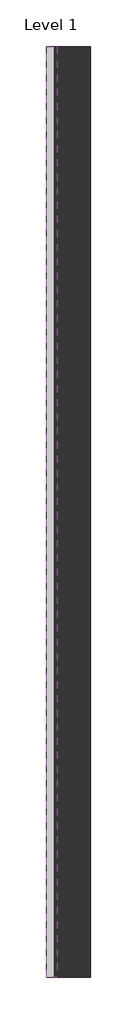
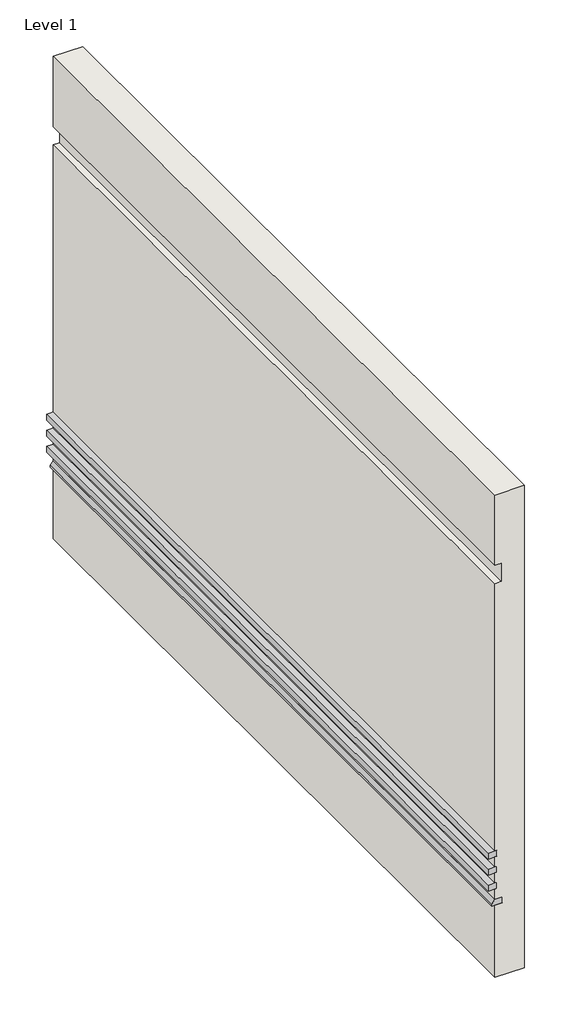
# One storey: 4 proxies, 1 wall.
"""IFC4 building model written with IfcOpenShell, lengths in millimetres."""

from ifc_helpers import new_model, si_unit, frame, origin, place, context, project, spatial, polyline, outline, extrude, faceted_brep, element, save

model = new_model("IFC4")

# Units and contexts
model_context = context("Model", 3, world=origin())
ifc_project = project(units=[si_unit("LENGTHUNIT", "METRE", prefix="MILLI")], contexts=[model_context])

# Site, building, storey
site = spatial("IfcSite", under=ifc_project)
building = spatial("IfcBuilding", under=site)
storey = spatial("IfcBuildingStorey", under=building, Name="Level 1", Elevation=0.0)

# Proxies
placement = place(None, origin())
element("IfcBuildingElementProxy", 1, Name="Wall Sweeps", at=placement, inside=storey, context=model_context, shape_type="Brep", body=[
    faceted_brep([(-4688.6440843, 2461.8087064, 970.0), (-4778.6440843, 2461.8087064, 970.0), (-4813.6440843, 2461.8087064, 925.4), (-4813.6440843, 2461.8087064, 900.0), (-4778.6440843, 2461.8087064, 900.0), (-4688.6440843, 2461.8087064, 900.0), (-4688.6440843, 11461.8087064, 970.0), (-4688.6440843, 11461.8087064, 900.0), (-4778.6440843, 11461.8087064, 900.0), (-4813.6440843, 11461.8087064, 900.0), (-4813.6440843, 11461.8087064, 925.4), (-4778.6440843, 11461.8087064, 970.0)], [[[0, 1, 2, 3, 4, 5]], [[6, 7, 8, 9, 10, 11]], [[1, 0, 6, 11]], [[2, 1, 11, 10]], [[3, 2, 10, 9]], [[5, 4, 3, 9, 8, 7]], [[0, 5, 7, 6]]]),
])
element("IfcBuildingElementProxy", 2, Name="Reveals", at=placement, inside=storey, context=model_context, shape_type="SweptSolid", body=[
    extrude(outline(polyline([(-4753.6440843, 2461.8087064), (-4856.1440843, 2461.8087064), (-4856.1440843, 11461.8087064), (-4753.6440843, 11461.8087064), (-4753.6440843, 2461.8087064)])), frame((0.0, 0.0, 1500.0), z_axis=(0.0, 0.0, 1.0), x_axis=(1.0, 0.0, 0.0)), (0.0, 0.0, 1.0), 75.0),
])
element("IfcBuildingElementProxy", 3, Name="Reveals", at=placement, inside=storey, context=model_context, shape_type="SweptSolid", body=[
    extrude(outline(polyline([(-4753.6440843, 2461.8087064), (-4856.1440843, 2461.8087064), (-4856.1440843, 11461.8087064), (-4753.6440843, 11461.8087064), (-4753.6440843, 2461.8087064)])), frame((0.0, 0.0, 1300.0), z_axis=(0.0, 0.0, 1.0), x_axis=(1.0, 0.0, 0.0)), (0.0, 0.0, 1.0), 75.0),
])
element("IfcBuildingElementProxy", 4, Name="Reveals", at=placement, inside=storey, context=model_context, shape_type="SweptSolid", body=[
    extrude(outline(polyline([(-4753.6440843, 2461.8087064), (-4856.1440843, 2461.8087064), (-4856.1440843, 11461.8087064), (-4753.6440843, 11461.8087064), (-4753.6440843, 2461.8087064)])), frame((0.0, 0.0, 1100.0), z_axis=(0.0, 0.0, 1.0), x_axis=(1.0, 0.0, 0.0)), (0.0, 0.0, 1.0), 75.0),
])

# Wall
element("IfcWall", 5, ObjectType="Tuğla Kaplamalı", at=placement, inside=storey, context=model_context, shape_type="SweptSolid", body=[
    extrude(outline(polyline([(0.0, -4431.1440843), (6000.0, -4431.1440843), (6000.0, -4778.6440843), (5125.0, -4778.6440843), (5125.0, -4703.6440843), (4900.0, -4703.6440843), (4900.0, -4778.6440843), (1575.0, -4778.6440843), (1575.0, -4753.6440843), (1500.0, -4753.6440843), (1500.0, -4778.6440843), (1375.0, -4778.6440843), (1375.0, -4753.6440843), (1300.0, -4753.6440843), (1300.0, -4778.6440843), (1175.0, -4778.6440843), (1175.0, -4753.6440843), (1100.0, -4753.6440843), (1100.0, -4778.6440843), (970.0, -4778.6440843), (970.0, -4688.6440843), (900.0, -4688.6440843), (900.0, -4778.6440843), (0.0, -4778.6440843), (0.0, -4431.1440843)])), frame((0.0, 2461.8087064, 0.0), z_axis=(0.0, 1.0, 0.0), x_axis=(0.0, 0.0, 1.0)), (0.0, 0.0, 1.0), 9000.0),
])

save(model, "model.ifc")
